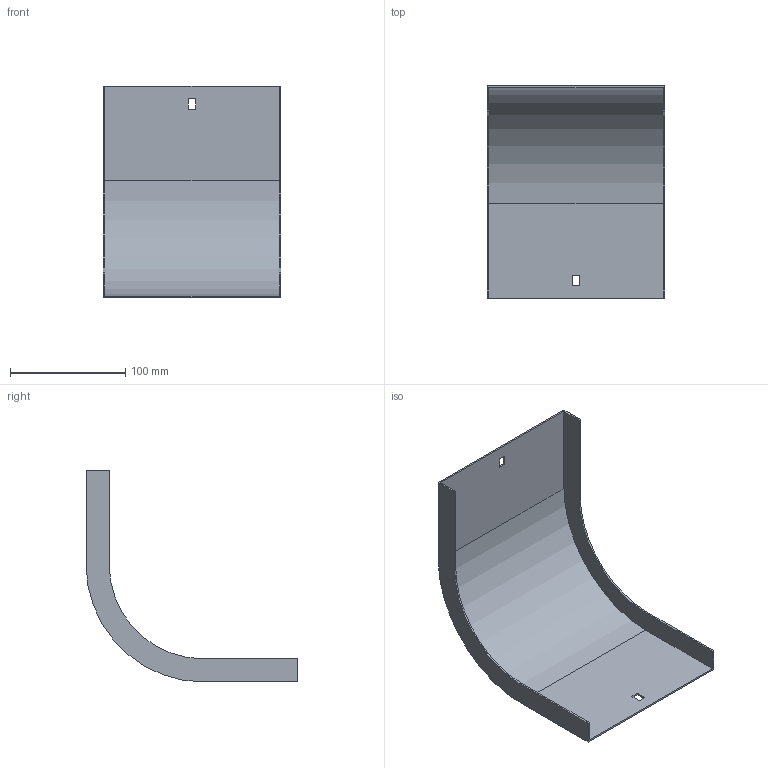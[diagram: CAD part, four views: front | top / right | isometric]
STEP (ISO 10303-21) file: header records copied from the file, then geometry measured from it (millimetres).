
FILE_DESCRIPTION (( 'STEP AP214' ), '1' );
FILE_NAME ('33G1B150.step', '2025-02-21T12:44:17', ( '' ), ( '' ), 'SwSTEP 2.0', 'SolidWorks 2023', '' );
FILE_SCHEMA (( 'AUTOMOTIVE_DESIGN' ));
Length unit declared in the file: millimetre
Products named in the file (1): 33G1B150
Bounding box: 154 x 183.5 x 183.5 mm (x, y, z)
Volume: 91279.5 mm3; surface area: 123251.7 mm2
Topology: 1 solids, 1 shells, 26 faces, 72 edges, 48 vertices
Faces by surface type: plane 22, cylinder 4
Entity records: 855 total; most frequent: CARTESIAN_POINT 147, ORIENTED_EDGE 144, DIRECTION 134, EDGE_CURVE 72, VECTOR 64, LINE 64, VERTEX_POINT 48, AXIS2_PLACEMENT_3D 35
